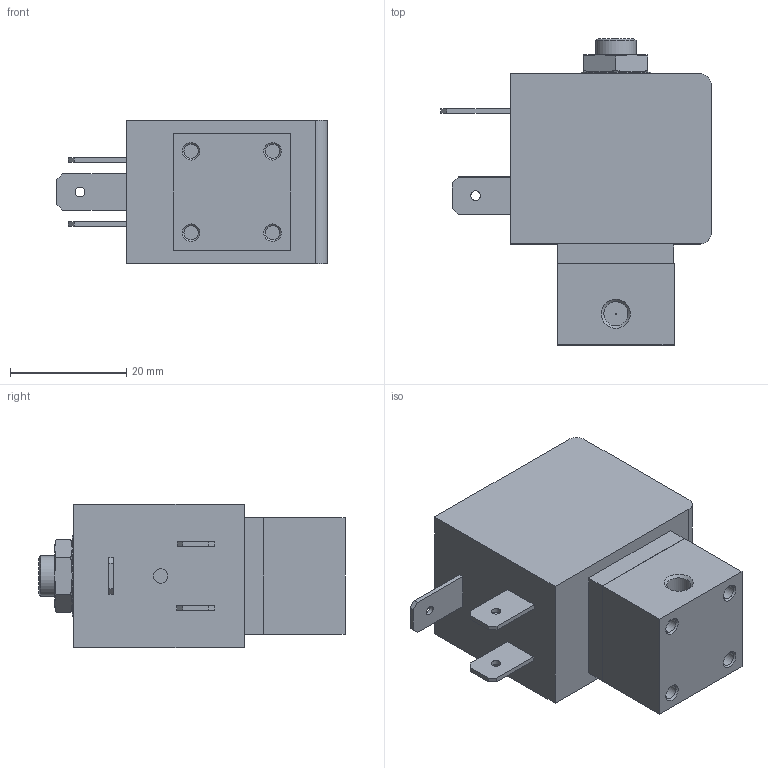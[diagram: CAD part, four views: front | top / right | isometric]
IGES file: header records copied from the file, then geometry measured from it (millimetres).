
Start section: Data from Parasolid IGES Translator 26.0.171, Copyright(c) 2006 Siemens PLM Software. All Rights Reserved.
Global section: file name: 7012-00380922Hubankerventil_3_2_Wege_direktwirkend.igs; native system: By Siemens PLM Incorporated; preprocessor: XPlus GENERIC/IGES 26.0.171; author: Noname; organization: Noname; date: 20240909.151103; units: millimetre
Bounding box: 46.5 x 52.6 x 24.6 mm (x, y, z)
Surface area: 7615.9 mm2 (no closed solid volume)
Topology: 0 solids, 0 shells, 115 faces, 576 edges, 563 vertices
Faces by surface type: extrusion 75, revolution 40
